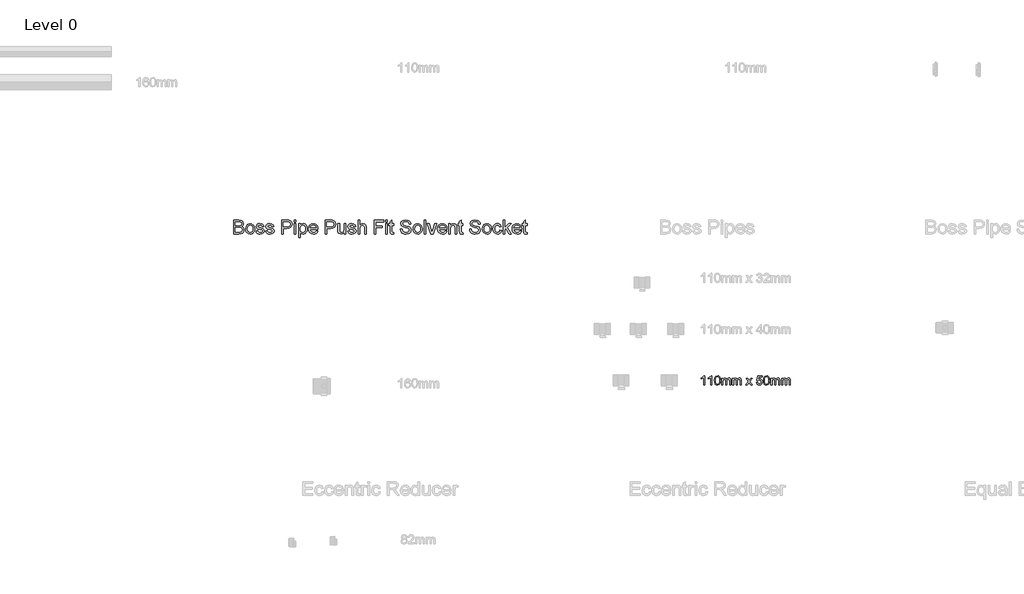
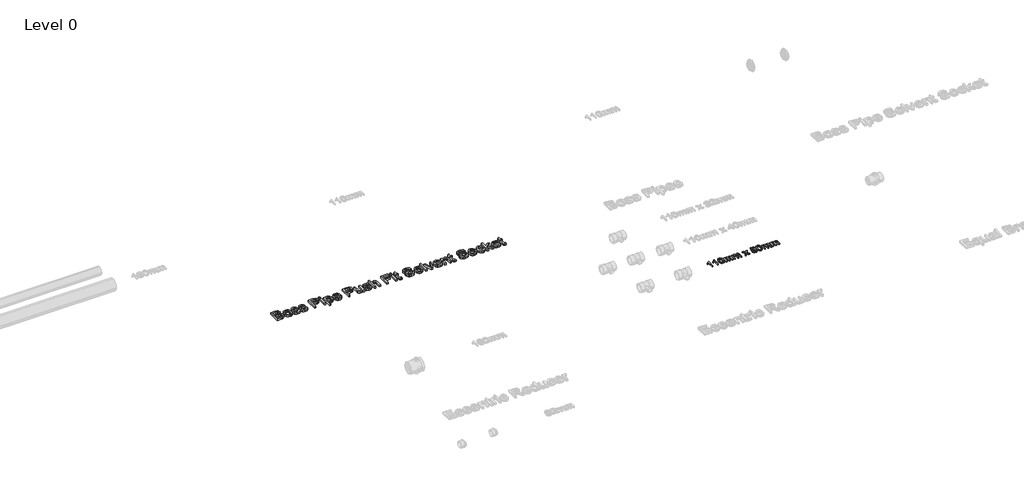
# One storey, part 11 of 28: 2 proxies.
"""IFC4 building model written with IfcOpenShell, lengths in millimetres."""

import ifcopenshell
import ifcopenshell.guid

model = None  # the IFC model being written
_history = None  # IfcOwnerHistory: only IFC2X3 demands one
_inside = {}  # id of a spatial element -> (the spatial element, [elements in it])
_under = {}  # id of a project, library or spatial element -> (it, [spatial elements below it])
_declared = {}  # id of a project -> (the project, [libraries it declares])
_typed = {}  # id of a type object -> (the type object, [elements of that type])
_made_of = {}  # id of a material, layer set ... -> (it, [elements and type objects made of it])


def new_model(schema):
    """Start an empty IFC model of exactly this schema.

    Asked for "IFC4X3", IfcOpenShell would pick the latest addendum, in which some entities
    have other attributes; the version numbers below select the first issue.
    IFC2X3 requires an IfcOwnerHistory on every rooted entity: one is made here for all.
    """
    global model, _history
    if schema == "IFC4X3":
        model = ifcopenshell.file(schema_version=(4, 3, 0, 0))
    else:
        model = ifcopenshell.file(schema=schema)
    _inside.clear()
    _under.clear()
    _declared.clear()
    _typed.clear()
    _made_of.clear()
    _history = None
    if model.schema == "IFC2X3":
        org = make("IfcOrganization", Name="unknown")
        user = make(
            "IfcPersonAndOrganization",
            ThePerson=make("IfcPerson", FamilyName="unknown"),
            TheOrganization=org,
        )
        app = make(
            "IfcApplication",
            ApplicationDeveloper=org,
            Version="unknown",
            ApplicationFullName="unknown",
            ApplicationIdentifier="unknown",
        )
        _history = make(
            "IfcOwnerHistory",
            OwningUser=user,
            OwningApplication=app,
            ChangeAction="ADDED",
            CreationDate=0,
        )
    return model


def make(cls, **values):
    """One entity of the class cls with the attributes given. An attribute that is None is left unset."""
    return model.create_entity(
        cls, **{name: value for name, value in values.items() if value is not None}
    )


def rooted(cls, **values):
    """An entity with a GlobalId (a new one), such as an element, a storey or a relation."""
    return make(cls, GlobalId=ifcopenshell.guid.new(), OwnerHistory=_history, **values)


def si_unit(unit_type, name, prefix=None):
    """IfcSIUnit, for example si_unit("LENGTHUNIT", "METRE", prefix="MILLI")."""
    return make("IfcSIUnit", UnitType=unit_type, Prefix=prefix, Name=name)


def assignment(units):
    """IfcUnitAssignment: the units of a project."""
    return None if units is None else make("IfcUnitAssignment", Units=units)


def point(xyz):
    """IfcCartesianPoint."""
    return None if xyz is None else make("IfcCartesianPoint", Coordinates=xyz)


def direction(xyz):
    """IfcDirection."""
    return None if xyz is None else make("IfcDirection", DirectionRatios=xyz)


def frame(location, z_axis=None, x_axis=None):
    """IfcAxis2Placement3D, a coordinate frame: its origin and axes. An axis left out is left unset."""
    return make(
        "IfcAxis2Placement3D",
        Location=point(location),
        Axis=direction(z_axis),
        RefDirection=direction(x_axis),
    )


def origin():
    """The frame at (0, 0, 0) with its axes left unset."""
    return frame((0.0, 0.0, 0.0))


def origin_with_axes():
    """The frame at (0, 0, 0) with the z axis (0, 0, 1) and the x axis (1, 0, 0) written out."""
    return frame((0.0, 0.0, 0.0), z_axis=(0.0, 0.0, 1.0), x_axis=(1.0, 0.0, 0.0))


def place(relative_to, where):
    """IfcLocalPlacement: puts the frame where relative to a parent placement (None: the world)."""
    return make(
        "IfcLocalPlacement", PlacementRelTo=relative_to, RelativePlacement=where
    )


def context(
    kind, dimensions, precision=None, world=None, true_north=None, identifier=None
):
    """IfcGeometricRepresentationContext, for example the 3D "Model" context."""
    return make(
        "IfcGeometricRepresentationContext",
        ContextIdentifier=identifier,
        ContextType=kind,
        CoordinateSpaceDimension=dimensions,
        Precision=precision,
        WorldCoordinateSystem=world,
        TrueNorth=true_north,
    )


def project(units=None, contexts=None):
    """IfcProject with its units and contexts."""
    return rooted(
        "IfcProject",
        Name="project",
        RepresentationContexts=contexts,
        UnitsInContext=assignment(units),
    )


def spatial(cls, under=None, at=None, **own):
    """A site, building, storey or space (cls), placed at a placement, below another one or the project."""
    s = rooted(cls, ObjectPlacement=at, **own)
    if under is not None:
        _under.setdefault(under.id(), (under, []))[1].append(s)
    return s


def polyline(points):
    """IfcPolyline through the points."""
    return make("IfcPolyline", Points=[point(p) for p in points])


def outline(outer, holes=None, kind="AREA"):
    """IfcArbitraryClosedProfileDef: a profile drawn as a closed curve; with holes, ...WithVoids."""
    if holes is None:
        return make("IfcArbitraryClosedProfileDef", ProfileType=kind, OuterCurve=outer)
    return make(
        "IfcArbitraryProfileDefWithVoids",
        ProfileType=kind,
        OuterCurve=outer,
        InnerCurves=holes,
    )


def extrude(swept, where, along, depth):
    """IfcExtrudedAreaSolid: the profile swept, set in the frame where, extruded along a direction by depth."""
    return make(
        "IfcExtrudedAreaSolid",
        SweptArea=swept,
        Position=where,
        ExtrudedDirection=direction(along),
        Depth=depth,
    )


def shape(context_of_items, identifier, shape_type, items):
    """IfcShapeRepresentation: the items that make up one representation, for example the "Body"."""
    return make(
        "IfcShapeRepresentation",
        ContextOfItems=context_of_items,
        RepresentationIdentifier=identifier,
        RepresentationType=shape_type,
        Items=items,
    )


def made_of(thing, what):
    """Note that an element or type object is made of a material, layer set ...; save() writes the relation."""
    if what is not None:
        _made_of.setdefault(what.id(), (what, []))[1].append(thing)
    return thing


def element(
    cls,
    number,
    at=None,
    inside=None,
    cuts=None,
    type_object=None,
    material=None,
    context=None,
    identifier="Body",
    shape_type=None,
    held_by="IfcProductDefinitionShape",
    body=None,
    shapes=None,
    **own,
):
    """One element of the class cls, such as IfcWall. Its Tag is "e" and its number.

    at: its placement. inside: the storey or other place that contains it. cuts: it is an
    opening in that element (IfcRelVoidsElement). A single representation is given by context,
    identifier, shape_type and body (its items); several are given by shapes. held_by: the class
    of the entity that holds the representations. save() writes the other relations.
    """
    e = rooted(cls, Tag="e%d" % number, ObjectPlacement=at, **own)
    if body is not None:
        shapes = [shape(context, identifier, shape_type, body)]
    if shapes is not None:
        e.Representation = make(held_by, Representations=shapes)
    if inside is not None:
        _inside.setdefault(inside.id(), (inside, []))[1].append(e)
    if cuts is not None:
        rooted(
            "IfcRelVoidsElement", RelatingBuildingElement=cuts, RelatedOpeningElement=e
        )
    if type_object is not None:
        _typed.setdefault(type_object.id(), (type_object, []))[1].append(e)
    return made_of(e, material)


def aggregate(whole, parts):
    """IfcRelAggregates: a whole, such as a stair, and the parts it consists of."""
    return rooted("IfcRelAggregates", RelatingObject=whole, RelatedObjects=parts)


def save(model, path):
    """Write the relations noted so far, then the file.

    IfcRelAggregates (storeys below a building ...), IfcRelContainedInSpatialStructure (elements
    in a storey), IfcRelDefinesByType, IfcRelAssociatesMaterial and IfcRelDeclares: one each for
    every whole, place, type object, material and project.
    """
    for whole, parts in _under.values():
        aggregate(whole, parts)
    for where, things in _inside.values():
        rooted(
            "IfcRelContainedInSpatialStructure",
            RelatedElements=things,
            RelatingStructure=where,
        )
    for kind, things in _typed.values():
        rooted("IfcRelDefinesByType", RelatedObjects=things, RelatingType=kind)
    for what, things in _made_of.values():
        rooted("IfcRelAssociatesMaterial", RelatedObjects=things, RelatingMaterial=what)
    for by, libraries in _declared.values():
        rooted("IfcRelDeclares", RelatingContext=by, RelatedDefinitions=libraries)
    model.write(path)


model = new_model("IFC4")

# Units and contexts
model_context = context("Model", 3, world=origin())
ifc_project = project(units=[si_unit("LENGTHUNIT", "METRE", prefix="MILLI")], contexts=[model_context])

# Site, building, storey
site = spatial("IfcSite", under=ifc_project)
building = spatial("IfcBuilding", under=site)
storey = spatial("IfcBuildingStorey", under=building, Name="Level 0", Elevation=0.0)

# Proxies
placement = place(None, origin())
element("IfcBuildingElementProxy", 1, Name="100mm Arial", ObjectType="100mm Arial", at=placement, inside=storey, context=model_context, shape_type="SweptSolid", body=[
    extrude(outline(polyline([(-17554.0370111, 4888.7830559), (-17566.3447034, 4888.7830559), (-17566.3447034, 4965.5138252), (-17578.0033572, 4957.2085367), (-17590.960088, 4950.9945944), (-17590.960088, 4962.6292098), (-17572.9192226, 4974.1436329), (-17561.9697034, 4987.2445944), (-17554.0370111, 4987.2445944), (-17554.0370111, 4888.7830559)])), origin_with_axes(), (0.0, 0.0, 1.0), 15.0),
    extrude(outline(polyline([(-17478.6523957, 4888.7830559), (-17490.960088, 4888.7830559), (-17490.960088, 4965.5138252), (-17502.6187418, 4957.2085367), (-17515.5754726, 4950.9945944), (-17515.5754726, 4962.6292098), (-17497.5346072, 4974.1436329), (-17486.585088, 4987.2445944), (-17478.6523957, 4987.2445944), (-17478.6523957, 4888.7830559)])), origin_with_axes(), (0.0, 0.0, 1.0), 15.0),
    extrude(outline(polyline([(-17449.4216264, 4937.2205559), (-17445.803838, 4965.5498829), (-17435.0586457, 4981.8840175), (-17417.1139341, 4987.2445944), (-17402.7389341, 4984.0715175), (-17392.8110495, 4974.9248829), (-17387.0418188, 4960.3575752), (-17384.8062418, 4937.2205559), (-17388.3879726, 4909.0114213), (-17399.0971072, 4892.641229), (-17417.1139341, 4887.2445944), (-17429.9023957, 4889.5883444), (-17439.6139341, 4896.6195944), (-17446.9697034, 4913.2722386), (-17449.4216264, 4937.2205559)]), holes=[polyline([(-17437.1139341, 4937.2445944), (-17435.6716264, 4917.8846184), (-17431.3447034, 4906.6796906), (-17424.9023957, 4901.3341377), (-17417.1139341, 4899.5522867), (-17409.3254726, 4901.3401473), (-17402.8831649, 4906.703729), (-17398.5562418, 4917.9146665), (-17397.1139341, 4937.2445944), (-17398.5081649, 4956.1688733), (-17402.6908572, 4967.4609406), (-17409.1211457, 4973.0679117), (-17417.2581649, 4974.9369021), (-17424.9624918, 4973.2902675), (-17431.1523957, 4968.3503636), (-17435.6235495, 4956.3551713), (-17437.1139341, 4937.2445944)])]), origin_with_axes(), (0.0, 0.0, 1.0), 15.0),
    extrude(outline(polyline([(-17370.960088, 4888.7830559), (-17370.960088, 4961.0907483), (-17358.6523957, 4961.0907483), (-17358.6523957, 4949.1917098), (-17350.1908572, 4958.9393059), (-17338.147588, 4962.6292098), (-17325.8158572, 4958.8671906), (-17319.0370111, 4948.3263252), (-17309.4336457, 4959.0534886), (-17297.3062418, 4962.6292098), (-17288.0544389, 4961.14183), (-17281.2124918, 4956.6796906), (-17276.9847274, 4949.1225992), (-17275.5754726, 4938.3503636), (-17275.5754726, 4888.7830559), (-17287.8831649, 4888.7830559), (-17287.8831649, 4933.0619021), (-17289.0249918, 4943.3383444), (-17293.1596072, 4948.3984406), (-17300.1908572, 4950.3215175), (-17312.2942226, 4945.3936329), (-17317.1139341, 4929.6003636), (-17317.1139341, 4888.7830559), (-17329.4216264, 4888.7830559), (-17329.4216264, 4934.4320944), (-17332.2701841, 4946.3551713), (-17341.6091264, 4950.3215175), (-17350.7197034, 4947.6772867), (-17356.7773957, 4939.9369021), (-17358.6523957, 4925.2494021), (-17358.6523957, 4888.7830559), (-17370.960088, 4888.7830559)])), origin_with_axes(), (0.0, 0.0, 1.0), 15.0),
    extrude(outline(polyline([(-17257.1139341, 4888.7830559), (-17257.1139341, 4961.0907483), (-17244.8062418, 4961.0907483), (-17244.8062418, 4949.1917098), (-17236.3447034, 4958.9393059), (-17224.3014341, 4962.6292098), (-17211.9697034, 4958.8671906), (-17205.1908572, 4948.3263252), (-17195.5874918, 4959.0534886), (-17183.460088, 4962.6292098), (-17174.2082851, 4961.14183), (-17167.366338, 4956.6796906), (-17163.1385736, 4949.1225992), (-17161.7293188, 4938.3503636), (-17161.7293188, 4888.7830559), (-17174.0370111, 4888.7830559), (-17174.0370111, 4933.0619021), (-17175.178838, 4943.3383444), (-17179.3134534, 4948.3984406), (-17186.3447034, 4950.3215175), (-17198.4480688, 4945.3936329), (-17203.2677803, 4929.6003636), (-17203.2677803, 4888.7830559), (-17215.5754726, 4888.7830559), (-17215.5754726, 4934.4320944), (-17218.4240303, 4946.3551713), (-17227.7629726, 4950.3215175), (-17236.8735495, 4947.6772867), (-17242.9312418, 4939.9369021), (-17244.8062418, 4925.2494021), (-17244.8062418, 4888.7830559), (-17257.1139341, 4888.7830559)])), origin_with_axes(), (0.0, 0.0, 1.0), 15.0),
    extrude(outline(polyline([(-17112.4985495, 4888.7830559), (-17086.2004726, 4925.1292098), (-17110.960088, 4961.0907483), (-17096.1523957, 4961.0907483), (-17084.2052803, 4943.7830559), (-17078.6283572, 4935.609979), (-17073.7966264, 4942.2926713), (-17060.1908572, 4961.0907483), (-17045.3831649, 4961.0907483), (-17071.3927803, 4925.1292098), (-17046.3447034, 4888.7830559), (-17061.1523957, 4888.7830559), (-17076.2245111, 4910.6340175), (-17078.9889341, 4914.6244021), (-17097.6908572, 4888.7830559), (-17112.4985495, 4888.7830559)])), origin_with_axes(), (0.0, 0.0, 1.0), 15.0),
    extrude(outline(polyline([(-17000.1908572, 4914.9369021), (-16987.8831649, 4916.4753636), (-16981.6812418, 4903.7950752), (-16968.8206649, 4899.5522867), (-16959.9985495, 4901.0276473), (-16953.3879726, 4905.453729), (-16949.2593668, 4912.3197146), (-16947.8831649, 4921.1147867), (-16953.0394149, 4935.7301713), (-16959.5147755, 4939.750604), (-16968.6283572, 4941.0907483), (-16979.4336457, 4938.9513252), (-16986.3447034, 4933.3984406), (-16998.6523957, 4934.9369021), (-16987.8831649, 4985.7061329), (-16940.1908572, 4985.7061329), (-16940.1908572, 4973.3984406), (-16977.9312418, 4973.3984406), (-16983.1956649, 4946.2830559), (-16974.4035976, 4951.6195944), (-16965.1908572, 4953.3984406), (-16953.6914582, 4951.1929117), (-16944.1451841, 4944.5763252), (-16937.7179005, 4934.4921906), (-16935.5754726, 4921.8840175), (-16937.5045591, 4909.5763252), (-16943.2918188, 4899.047479), (-16954.3735495, 4890.1953156), (-16968.8687418, 4887.2445944), (-16980.9570832, 4889.1406281), (-16990.5874918, 4894.828729), (-16997.1890543, 4903.6478396), (-17000.1908572, 4914.9369021)])), origin_with_axes(), (0.0, 0.0, 1.0), 15.0),
    extrude(outline(polyline([(-16924.8062418, 4937.2205559), (-16921.1884534, 4965.5498829), (-16910.4432611, 4981.8840175), (-16892.4985495, 4987.2445944), (-16878.1235495, 4984.0715175), (-16868.1956649, 4974.9248829), (-16862.4264341, 4960.3575752), (-16860.1908572, 4937.2205559), (-16863.772588, 4909.0114213), (-16874.4817226, 4892.641229), (-16892.4985495, 4887.2445944), (-16905.2870111, 4889.5883444), (-16914.9985495, 4896.6195944), (-16922.3543188, 4913.2722386), (-16924.8062418, 4937.2205559)]), holes=[polyline([(-16912.4985495, 4937.2445944), (-16911.0562418, 4917.8846184), (-16906.7293188, 4906.6796906), (-16900.2870111, 4901.3341377), (-16892.4985495, 4899.5522867), (-16884.710088, 4901.3401473), (-16878.2677803, 4906.703729), (-16873.9408572, 4917.9146665), (-16872.4985495, 4937.2445944), (-16873.8927803, 4956.1688733), (-16878.0754726, 4967.4609406), (-16884.5057611, 4973.0679117), (-16892.6427803, 4974.9369021), (-16900.3471072, 4973.2902675), (-16906.5370111, 4968.3503636), (-16911.0081649, 4956.3551713), (-16912.4985495, 4937.2445944)])]), origin_with_axes(), (0.0, 0.0, 1.0), 15.0),
    extrude(outline(polyline([(-16846.3447034, 4888.7830559), (-16846.3447034, 4961.0907483), (-16834.0370111, 4961.0907483), (-16834.0370111, 4949.1917098), (-16825.5754726, 4958.9393059), (-16813.5322034, 4962.6292098), (-16801.2004726, 4958.8671906), (-16794.4216264, 4948.3263252), (-16784.8182611, 4959.0534886), (-16772.6908572, 4962.6292098), (-16763.4390543, 4961.14183), (-16756.5971072, 4956.6796906), (-16752.3693428, 4949.1225992), (-16750.960088, 4938.3503636), (-16750.960088, 4888.7830559), (-16763.2677803, 4888.7830559), (-16763.2677803, 4933.0619021), (-16764.4096072, 4943.3383444), (-16768.5442226, 4948.3984406), (-16775.5754726, 4950.3215175), (-16787.678838, 4945.3936329), (-16792.4985495, 4929.6003636), (-16792.4985495, 4888.7830559), (-16804.8062418, 4888.7830559), (-16804.8062418, 4934.4320944), (-16807.6547995, 4946.3551713), (-16816.9937418, 4950.3215175), (-16826.1043188, 4947.6772867), (-16832.1620111, 4939.9369021), (-16834.0370111, 4925.2494021), (-16834.0370111, 4888.7830559), (-16846.3447034, 4888.7830559)])), origin_with_axes(), (0.0, 0.0, 1.0), 15.0),
    extrude(outline(polyline([(-16732.4985495, 4888.7830559), (-16732.4985495, 4961.0907483), (-16720.1908572, 4961.0907483), (-16720.1908572, 4949.1917098), (-16711.7293188, 4958.9393059), (-16699.6860495, 4962.6292098), (-16687.3543188, 4958.8671906), (-16680.5754726, 4948.3263252), (-16670.9721072, 4959.0534886), (-16658.8447034, 4962.6292098), (-16649.5929005, 4961.14183), (-16642.7509534, 4956.6796906), (-16638.5231889, 4949.1225992), (-16637.1139341, 4938.3503636), (-16637.1139341, 4888.7830559), (-16649.4216264, 4888.7830559), (-16649.4216264, 4933.0619021), (-16650.5634534, 4943.3383444), (-16654.6980688, 4948.3984406), (-16661.7293188, 4950.3215175), (-16673.8326841, 4945.3936329), (-16678.6523957, 4929.6003636), (-16678.6523957, 4888.7830559), (-16690.960088, 4888.7830559), (-16690.960088, 4934.4320944), (-16693.8086457, 4946.3551713), (-16703.147588, 4950.3215175), (-16712.2581649, 4947.6772867), (-16718.3158572, 4939.9369021), (-16720.1908572, 4925.2494021), (-16720.1908572, 4888.7830559), (-16732.4985495, 4888.7830559)])), origin_with_axes(), (0.0, 0.0, 1.0), 15.0),
])
element("IfcBuildingElementProxy", 2, Name="150mm Arial", ObjectType="150mm Arial", at=placement, inside=storey, context=model_context, shape_type="SweptSolid", body=[
    extrude(outline(polyline([(-22592.5279897, 6505.2145219), (-22592.5279897, 6652.9068296), (-22536.1698166, 6652.9068296), (-22508.5676531, 6648.5618777), (-22499.2918118, 6643.049558), (-22492.2695762, 6635.2025027), (-22486.3741435, 6616.3082719), (-22491.3320762, 6599.0546661), (-22506.3140473, 6585.9837527), (-22495.8528094, 6580.5210123), (-22488.1229416, 6572.2097142), (-22483.3498046, 6561.5997383), (-22481.7587589, 6549.2409642), (-22486.1037108, 6529.3912046), (-22496.866932, 6515.2565892), (-22512.9306339, 6507.7565892), (-22536.6025089, 6505.2145219), (-22592.5279897, 6505.2145219)]), holes=[polyline([(-22574.0664512, 6523.6760604), (-22536.2058743, 6523.6760604), (-22522.5039512, 6524.3972142), (-22510.9114031, 6528.4176469), (-22503.2311147, 6536.6207719), (-22500.2202973, 6549.0606758), (-22503.7539512, 6563.4116373), (-22515.2022685, 6571.9753392), (-22538.0087589, 6574.4452911), (-22574.0664512, 6574.4452911), (-22574.0664512, 6523.6760604)]), polyline([(-22574.0664512, 6592.9068296), (-22540.3525089, 6592.9068296), (-22520.6650089, 6594.4933681), (-22508.820057, 6601.3263008), (-22504.835682, 6613.3515411), (-22508.5496243, 6625.3948104), (-22519.1866435, 6632.5162046), (-22542.912605, 6634.4452911), (-22574.0664512, 6634.4452911), (-22574.0664512, 6592.9068296)])]), origin_with_axes(), (0.0, 0.0, 1.0), 25.0),
    extrude(outline(polyline([(-22463.2972204, 6559.4452911), (-22459.303831, 6585.5961325), (-22447.3236627, 6603.9765411), (-22432.52198, 6612.9819498), (-22414.7996243, 6615.9837527), (-22395.405093, 6612.3284041), (-22379.913807, 6601.3623585), (-22369.7590594, 6583.9510003), (-22366.3741435, 6560.9597142), (-22367.8705377, 6542.3088729), (-22372.3597204, 6528.1111565), (-22379.7109824, 6517.4786445), (-22389.7936147, 6509.5234161), (-22401.7692757, 6504.5609762), (-22414.7996243, 6502.9068296), (-22434.4285305, 6506.5486565), (-22449.9017877, 6517.4741373), (-22459.9483622, 6535.2505796), (-22463.2972204, 6559.4452911)]), holes=[polyline([(-22444.835682, 6559.4813488), (-22442.6992637, 6542.7731157), (-22436.2900089, 6530.86957), (-22426.6445762, 6523.7436686), (-22414.7996243, 6521.3683681), (-22403.0087589, 6523.7571902), (-22393.381355, 6530.9236565), (-22386.9721002, 6542.9849546), (-22384.835682, 6560.0582719), (-22386.9856219, 6576.2797262), (-22393.4354416, 6588.0210123), (-22403.0763671, 6595.1469137), (-22414.7996243, 6597.5222142), (-22426.6445762, 6595.1559282), (-22436.2900089, 6588.05707), (-22442.6992637, 6576.1805676), (-22444.835682, 6559.4813488)])]), origin_with_axes(), (0.0, 0.0, 1.0), 25.0),
    extrude(outline(polyline([(-22352.5279897, 6537.5222142), (-22334.0664512, 6539.8299065), (-22331.1547925, 6531.9332719), (-22325.5207781, 6526.1279835), (-22305.9414512, 6521.3683681), (-22287.1193358, 6525.7313488), (-22280.9895281, 6535.9717335), (-22287.1553935, 6544.2650027), (-22306.1577973, 6549.5294258), (-22333.9582781, 6558.5618777), (-22346.0916916, 6569.1087527), (-22350.2202973, 6584.0005796), (-22346.9029897, 6597.7565892), (-22337.8525089, 6608.2674065), (-22326.11573, 6613.7301469), (-22310.2323166, 6615.9837527), (-22287.7683743, 6612.3599546), (-22273.4895281, 6602.5522623), (-22267.1433743, 6585.9837527), (-22285.6049127, 6583.6760604), (-22292.5460185, 6593.8623585), (-22308.7900089, 6597.5222142), (-22326.4582781, 6594.0246181), (-22331.7587589, 6585.8755796), (-22329.5592397, 6580.5029835), (-22322.6722204, 6576.4284642), (-22306.7707781, 6572.4981758), (-22279.6734223, 6563.8082719), (-22267.0892877, 6553.9645219), (-22262.5279897, 6537.9188488), (-22267.882557, 6520.2505796), (-22283.3332781, 6507.43207), (-22306.193855, 6502.9068296), (-22324.8086387, 6505.08832), (-22338.3933743, 6511.6327911), (-22347.4618839, 6522.4681277), (-22352.5279897, 6537.5222142)])), origin_with_axes(), (0.0, 0.0, 1.0), 25.0),
    extrude(outline(polyline([(-22248.6818358, 6537.5222142), (-22230.2202973, 6539.8299065), (-22227.3086387, 6531.9332719), (-22221.6746243, 6526.1279835), (-22202.0952973, 6521.3683681), (-22183.273182, 6525.7313488), (-22177.1433743, 6535.9717335), (-22183.3092397, 6544.2650027), (-22202.3116435, 6549.5294258), (-22230.1121243, 6558.5618777), (-22242.2455377, 6569.1087527), (-22246.3741435, 6584.0005796), (-22243.0568358, 6597.7565892), (-22234.006355, 6608.2674065), (-22222.2695762, 6613.7301469), (-22206.3861627, 6615.9837527), (-22183.9222204, 6612.3599546), (-22169.6433743, 6602.5522623), (-22163.2972204, 6585.9837527), (-22181.7587589, 6583.6760604), (-22188.6998647, 6593.8623585), (-22204.943855, 6597.5222142), (-22222.6121243, 6594.0246181), (-22227.912605, 6585.8755796), (-22225.7130858, 6580.5029835), (-22218.8260666, 6576.4284642), (-22202.9246243, 6572.4981758), (-22175.8272685, 6563.8082719), (-22163.2431339, 6553.9645219), (-22158.6818358, 6537.9188488), (-22164.0364031, 6520.2505796), (-22179.4871243, 6507.43207), (-22202.3477012, 6502.9068296), (-22220.9624848, 6505.08832), (-22234.5472204, 6511.6327911), (-22243.61573, 6522.4681277), (-22248.6818358, 6537.5222142)])), origin_with_axes(), (0.0, 0.0, 1.0), 25.0),
    extrude(outline(polyline([(-22077.912605, 6505.2145219), (-22077.912605, 6652.9068296), (-22023.1770281, 6652.9068296), (-22001.1097204, 6651.5005796), (-21983.1710185, 6644.5955315), (-21971.5424127, 6630.3166854), (-21967.1433743, 6610.1784642), (-21970.1136267, 6592.7716133), (-21979.0243839, 6578.2674065), (-21995.6875449, 6568.4777431), (-22021.9150089, 6565.2145219), (-22059.4510666, 6565.2145219), (-22059.4510666, 6505.2145219), (-22077.912605, 6505.2145219)]), holes=[polyline([(-22059.4510666, 6583.6760604), (-22020.8332781, 6583.6760604), (-22004.4630858, 6585.3707719), (-21993.6457781, 6590.4549065), (-21987.6151291, 6598.6129594), (-21985.6049127, 6609.5294258), (-21990.3464993, 6624.8178873), (-22002.804432, 6633.1832719), (-22021.2659704, 6634.4452911), (-22059.4510666, 6634.4452911), (-22059.4510666, 6583.6760604)])]), origin_with_axes(), (0.0, 0.0, 1.0), 25.0),
    extrude(outline(polyline([(-21944.0664512, 6634.4452911), (-21944.0664512, 6652.9068296), (-21925.6049127, 6652.9068296), (-21925.6049127, 6634.4452911), (-21944.0664512, 6634.4452911)])), origin_with_axes(), (0.0, 0.0, 1.0), 25.0),
    extrude(outline(polyline([(-21944.0664512, 6505.2145219), (-21944.0664512, 6613.6760604), (-21925.6049127, 6613.6760604), (-21925.6049127, 6505.2145219), (-21944.0664512, 6505.2145219)])), origin_with_axes(), (0.0, 0.0, 1.0), 25.0),
    extrude(outline(polyline([(-21897.912605, 6463.6760604), (-21897.912605, 6613.6760604), (-21879.4510666, 6613.6760604), (-21879.4510666, 6595.5750988), (-21866.6866435, 6610.8815892), (-21849.4510666, 6615.9837527), (-21836.9660906, 6614.1988969), (-21826.0496243, 6608.8443296), (-21817.1614031, 6600.24457), (-21810.7611627, 6588.7241373), (-21805.6049127, 6560.2746181), (-21807.0607421, 6544.4858561), (-21811.42823, 6530.3647623), (-21818.5676531, 6518.6279835), (-21828.3392877, 6509.9921661), (-21839.7199969, 6504.6781637), (-21851.6866435, 6502.9068296), (-21867.7503454, 6507.6484161), (-21879.4510666, 6519.6375988), (-21879.4510666, 6463.6760604), (-21897.912605, 6463.6760604)]), holes=[polyline([(-21879.4510666, 6558.5799065), (-21877.4543719, 6542.0294258), (-21871.4642877, 6530.4549065), (-21862.6256459, 6523.6400027), (-21852.0832781, 6521.3683681), (-21841.3696363, 6523.7211325), (-21832.3056339, 6530.7794258), (-21826.1262469, 6542.7776229), (-21824.0664512, 6559.9500988), (-21826.0766675, 6576.4104354), (-21832.1073166, 6588.1472142), (-21840.9324368, 6595.1784642), (-21851.3260666, 6597.5222142), (-21861.7602613, 6595.0297262), (-21870.9234223, 6587.5522623), (-21877.3191555, 6575.3241974), (-21879.4510666, 6558.5799065)])]), origin_with_axes(), (0.0, 0.0, 1.0), 25.0),
    extrude(outline(polyline([(-21708.898182, 6537.5222142), (-21690.7972204, 6535.2145219), (-21697.3191555, 6521.5756998), (-21707.726307, 6511.3803873), (-21721.7842997, 6505.025219), (-21739.2587589, 6502.9068296), (-21760.9204175, 6506.5621782), (-21777.5880858, 6517.5282238), (-21788.2160906, 6535.0928272), (-21791.7587589, 6558.5438488), (-21788.1800329, 6582.7836325), (-21777.443855, 6600.9116373), (-21761.0015473, 6612.2157238), (-21740.304432, 6615.9837527), (-21720.2518478, 6612.2247383), (-21704.2287108, 6600.947695), (-21693.7224007, 6582.8557479), (-21690.2202973, 6558.6520219), (-21690.3284704, 6553.6760604), (-21773.2972204, 6553.6760604), (-21770.1016074, 6539.8569498), (-21762.67823, 6529.697695), (-21751.9645882, 6523.4506998), (-21738.898182, 6521.3683681), (-21720.7972204, 6525.2265411), (-21708.898182, 6537.5222142)]), holes=[polyline([(-21773.2972204, 6572.1375988), (-21708.6818358, 6572.1375988), (-21711.178831, 6581.8912046), (-21716.0736627, 6588.8683681), (-21726.8368839, 6595.3587527), (-21740.3765473, 6597.5222142), (-21752.8209584, 6595.7959522), (-21763.1109223, 6590.6171661), (-21770.2638671, 6582.5447503), (-21773.2972204, 6572.1375988)])]), origin_with_axes(), (0.0, 0.0, 1.0), 25.0),
    extrude(outline(polyline([(-21611.7587589, 6505.2145219), (-21611.7587589, 6652.9068296), (-21557.023182, 6652.9068296), (-21534.9558743, 6651.5005796), (-21517.0171723, 6644.5955315), (-21505.3885666, 6630.3166854), (-21500.9895281, 6610.1784642), (-21503.9597805, 6592.7716133), (-21512.8705377, 6578.2674065), (-21529.5336988, 6568.4777431), (-21555.7611627, 6565.2145219), (-21593.2972204, 6565.2145219), (-21593.2972204, 6505.2145219), (-21611.7587589, 6505.2145219)]), holes=[polyline([(-21593.2972204, 6583.6760604), (-21554.679432, 6583.6760604), (-21538.3092397, 6585.3707719), (-21527.491932, 6590.4549065), (-21521.4612829, 6598.6129594), (-21519.4510666, 6609.5294258), (-21524.1926531, 6624.8178873), (-21536.6505858, 6633.1832719), (-21555.1121243, 6634.4452911), (-21593.2972204, 6634.4452911), (-21593.2972204, 6583.6760604)])]), origin_with_axes(), (0.0, 0.0, 1.0), 25.0),
    extrude(outline(polyline([(-21408.6818358, 6505.2145219), (-21408.6818358, 6523.8563488), (-21423.1409704, 6508.1442094), (-21441.9991435, 6502.9068296), (-21459.3609223, 6506.5847142), (-21471.3320762, 6515.8154835), (-21476.8308743, 6529.4092335), (-21477.912605, 6546.572695), (-21477.912605, 6613.6760604), (-21459.4510666, 6613.6760604), (-21459.4510666, 6555.2625988), (-21458.3332781, 6536.4404835), (-21451.0315954, 6525.3888008), (-21437.2755858, 6521.3683681), (-21421.8609223, 6525.478945), (-21411.6746243, 6536.6748585), (-21408.6818358, 6557.2457719), (-21408.6818358, 6613.6760604), (-21390.2202973, 6613.6760604), (-21390.2202973, 6505.2145219), (-21408.6818358, 6505.2145219)])), origin_with_axes(), (0.0, 0.0, 1.0), 25.0),
    extrude(outline(polyline([(-21371.7587589, 6537.5222142), (-21353.2972204, 6539.8299065), (-21350.3855618, 6531.9332719), (-21344.7515473, 6526.1279835), (-21325.1722204, 6521.3683681), (-21306.350105, 6525.7313488), (-21300.2202973, 6535.9717335), (-21306.3861627, 6544.2650027), (-21325.3885666, 6549.5294258), (-21353.1890473, 6558.5618777), (-21365.3224608, 6569.1087527), (-21369.4510666, 6584.0005796), (-21366.1337589, 6597.7565892), (-21357.0832781, 6608.2674065), (-21345.3464993, 6613.7301469), (-21329.4630858, 6615.9837527), (-21306.9991435, 6612.3599546), (-21292.7202973, 6602.5522623), (-21286.3741435, 6585.9837527), (-21304.835682, 6583.6760604), (-21311.7767877, 6593.8623585), (-21328.0207781, 6597.5222142), (-21345.6890473, 6594.0246181), (-21350.9895281, 6585.8755796), (-21348.7900089, 6580.5029835), (-21341.9029897, 6576.4284642), (-21326.0015473, 6572.4981758), (-21298.9041916, 6563.8082719), (-21286.320057, 6553.9645219), (-21281.7587589, 6537.9188488), (-21287.1133262, 6520.2505796), (-21302.5640473, 6507.43207), (-21325.4246243, 6502.9068296), (-21344.0394079, 6505.08832), (-21357.6241435, 6511.6327911), (-21366.6926531, 6522.4681277), (-21371.7587589, 6537.5222142)])), origin_with_axes(), (0.0, 0.0, 1.0), 25.0),
    extrude(outline(polyline([(-21260.9895281, 6505.2145219), (-21260.9895281, 6652.9068296), (-21242.5279897, 6652.9068296), (-21242.5279897, 6598.603945), (-21228.131956, 6611.6388008), (-21210.4005858, 6615.9837527), (-21189.6674127, 6611.2421661), (-21177.0832781, 6598.135195), (-21173.2972204, 6573.8683681), (-21173.2972204, 6505.2145219), (-21191.7587589, 6505.2145219), (-21191.7587589, 6571.9573104), (-21193.2281098, 6583.5138008), (-21197.6361627, 6591.4284642), (-21204.7395281, 6595.9987767), (-21214.2948166, 6597.5222142), (-21229.4210185, 6593.4116373), (-21239.5171723, 6582.2698104), (-21242.5279897, 6562.8347142), (-21242.5279897, 6505.2145219), (-21260.9895281, 6505.2145219)])), origin_with_axes(), (0.0, 0.0, 1.0), 25.0),
    extrude(outline(polyline([(-21087.912605, 6505.2145219), (-21087.912605, 6652.9068296), (-20988.6818358, 6652.9068296), (-20988.6818358, 6634.4452911), (-21069.4510666, 6634.4452911), (-21069.4510666, 6590.5991373), (-21000.2202973, 6590.5991373), (-21000.2202973, 6572.1375988), (-21069.4510666, 6572.1375988), (-21069.4510666, 6505.2145219), (-21087.912605, 6505.2145219)])), origin_with_axes(), (0.0, 0.0, 1.0), 25.0),
    extrude(outline(polyline([(-20965.6049127, 6634.4452911), (-20965.6049127, 6652.9068296), (-20947.1433743, 6652.9068296), (-20947.1433743, 6634.4452911), (-20965.6049127, 6634.4452911)])), origin_with_axes(), (0.0, 0.0, 1.0), 25.0),
    extrude(outline(polyline([(-20965.6049127, 6505.2145219), (-20965.6049127, 6613.6760604), (-20947.1433743, 6613.6760604), (-20947.1433743, 6505.2145219), (-20965.6049127, 6505.2145219)])), origin_with_axes(), (0.0, 0.0, 1.0), 25.0),
    extrude(outline(polyline([(-20880.2202973, 6520.6111565), (-20877.912605, 6504.6736565), (-20891.7227012, 6502.9068296), (-20907.1914512, 6505.9717335), (-20914.9077973, 6514.0125988), (-20917.1433743, 6534.9621181), (-20917.1433743, 6595.2145219), (-20930.9895281, 6595.2145219), (-20930.9895281, 6613.6760604), (-20917.1433743, 6613.6760604), (-20917.1433743, 6640.0342335), (-20898.6818358, 6650.8875988), (-20898.6818358, 6613.6760604), (-20880.2202973, 6613.6760604), (-20880.2202973, 6595.2145219), (-20898.6818358, 6595.2145219), (-20898.6818358, 6535.5029835), (-20897.7082781, 6525.9837527), (-20894.55323, 6522.6123585), (-20888.2611627, 6521.3683681), (-20880.2202973, 6520.6111565)])), origin_with_axes(), (0.0, 0.0, 1.0), 25.0),
    extrude(outline(polyline([(-20808.6818358, 6555.9837527), (-20790.2202973, 6555.9837527), (-20784.2707781, 6537.5041854), (-20769.7395281, 6525.8214931), (-20747.600105, 6521.3683681), (-20728.3092397, 6524.7397623), (-20715.851307, 6534.0065892), (-20711.7587589, 6546.3924065), (-20714.8236627, 6557.9128392), (-20727.3717397, 6566.2962527), (-20754.2527493, 6573.3455315), (-20783.1890473, 6582.4500988), (-20798.8921723, 6596.1880796), (-20804.0664512, 6614.541445), (-20802.4663911, 6625.3542455), (-20797.6662108, 6635.4368777), (-20789.7921122, 6643.9825508), (-20778.9702973, 6650.1844738), (-20751.6025089, 6655.2145219), (-20722.3957781, 6649.9500988), (-20711.1998647, 6643.4506998), (-20702.9246243, 6634.4813488), (-20697.6872445, 6623.6009402), (-20695.6049127, 6611.3683681), (-20714.0664512, 6611.3683681), (-20717.4558743, 6622.3839931), (-20724.523182, 6630.3347142), (-20735.5658502, 6635.1484161), (-20750.881355, 6636.7529835), (-20766.5574368, 6635.166445), (-20777.3116435, 6630.4068296), (-20783.5315954, 6623.4026229), (-20785.6049127, 6615.0823104), (-20784.1355618, 6607.9879594), (-20779.7275089, 6602.2818296), (-20749.5832781, 6591.9693296), (-20716.9150089, 6582.7025027), (-20706.3906699, 6576.0047863), (-20699.0484223, 6567.7385604), (-20693.2972204, 6546.8611565), (-20694.9513671, 6535.4804474), (-20699.913807, 6524.77582), (-20707.9817156, 6515.5630796), (-20718.9522685, 6508.6580315), (-20746.8789512, 6502.9068296), (-20764.9663911, 6504.4573104), (-20779.8537108, 6509.1087527), (-20791.7121844, 6516.8791854), (-20800.7130858, 6527.7866373), (-20806.491331, 6541.0738969), (-20808.6818358, 6555.9837527)])), origin_with_axes(), (0.0, 0.0, 1.0), 25.0),
    extrude(outline(polyline([(-20672.5279897, 6559.4452911), (-20668.5346002, 6585.5961325), (-20656.554432, 6603.9765411), (-20641.7527493, 6612.9819498), (-20624.0303935, 6615.9837527), (-20604.6358622, 6612.3284041), (-20589.1445762, 6601.3623585), (-20578.9898286, 6583.9510003), (-20575.6049127, 6560.9597142), (-20577.101307, 6542.3088729), (-20581.5904897, 6528.1111565), (-20588.9417517, 6517.4786445), (-20599.0243839, 6509.5234161), (-20611.0000449, 6504.5609762), (-20624.0303935, 6502.9068296), (-20643.6592997, 6506.5486565), (-20659.132557, 6517.4741373), (-20669.1791315, 6535.2505796), (-20672.5279897, 6559.4452911)]), holes=[polyline([(-20654.0664512, 6559.4813488), (-20651.9300329, 6542.7731157), (-20645.5207781, 6530.86957), (-20635.8753454, 6523.7436686), (-20624.0303935, 6521.3683681), (-20612.2395281, 6523.7571902), (-20602.6121243, 6530.9236565), (-20596.2028695, 6542.9849546), (-20594.0664512, 6560.0582719), (-20596.2163911, 6576.2797262), (-20602.6662108, 6588.0210123), (-20612.3071363, 6595.1469137), (-20624.0303935, 6597.5222142), (-20635.8753454, 6595.1559282), (-20645.5207781, 6588.05707), (-20651.9300329, 6576.1805676), (-20654.0664512, 6559.4813488)])]), origin_with_axes(), (0.0, 0.0, 1.0), 25.0),
    extrude(outline(polyline([(-20554.835682, 6505.2145219), (-20554.835682, 6652.9068296), (-20536.3741435, 6652.9068296), (-20536.3741435, 6505.2145219), (-20554.835682, 6505.2145219)])), origin_with_axes(), (0.0, 0.0, 1.0), 25.0),
    extrude(outline(polyline([(-20482.0712589, 6505.2145219), (-20520.2202973, 6613.6760604), (-20500.6770281, 6613.6760604), (-20477.5640473, 6548.7000988), (-20470.6049127, 6526.8491373), (-20463.7900089, 6547.4741373), (-20440.5327973, 6613.6760604), (-20420.9895281, 6613.6760604), (-20458.6698166, 6505.2145219), (-20482.0712589, 6505.2145219)])), origin_with_axes(), (0.0, 0.0, 1.0), 25.0),
    extrude(outline(polyline([(-20328.898182, 6537.5222142), (-20310.7972204, 6535.2145219), (-20317.3191555, 6521.5756998), (-20327.726307, 6511.3803873), (-20341.7842997, 6505.025219), (-20359.2587589, 6502.9068296), (-20380.9204175, 6506.5621782), (-20397.5880858, 6517.5282238), (-20408.2160906, 6535.0928272), (-20411.7587589, 6558.5438488), (-20408.1800329, 6582.7836325), (-20397.443855, 6600.9116373), (-20381.0015473, 6612.2157238), (-20360.304432, 6615.9837527), (-20340.2518478, 6612.2247383), (-20324.2287108, 6600.947695), (-20313.7224007, 6582.8557479), (-20310.2202973, 6558.6520219), (-20310.3284704, 6553.6760604), (-20393.2972204, 6553.6760604), (-20390.1016074, 6539.8569498), (-20382.67823, 6529.697695), (-20371.9645882, 6523.4506998), (-20358.898182, 6521.3683681), (-20340.7972204, 6525.2265411), (-20328.898182, 6537.5222142)]), holes=[polyline([(-20393.2972204, 6572.1375988), (-20328.6818358, 6572.1375988), (-20331.178831, 6581.8912046), (-20336.0736627, 6588.8683681), (-20346.8368839, 6595.3587527), (-20360.3765473, 6597.5222142), (-20372.8209584, 6595.7959522), (-20383.1109223, 6590.6171661), (-20390.2638671, 6582.5447503), (-20393.2972204, 6572.1375988)])]), origin_with_axes(), (0.0, 0.0, 1.0), 25.0),
    extrude(outline(polyline([(-20291.7587589, 6505.2145219), (-20291.7587589, 6613.6760604), (-20273.2972204, 6613.6760604), (-20273.2972204, 6598.5318296), (-20259.1806339, 6611.6207719), (-20239.9077973, 6615.9837527), (-20222.4739031, 6612.4681277), (-20210.5748647, 6603.2373585), (-20205.0400089, 6589.6616373), (-20204.0664512, 6571.8130796), (-20204.0664512, 6505.2145219), (-20222.5279897, 6505.2145219), (-20222.5279897, 6569.3250988), (-20224.6553935, 6585.6592335), (-20232.1734223, 6594.2950508), (-20244.8477012, 6597.5222142), (-20255.6605017, 6595.7103152), (-20264.8777493, 6590.2746181), (-20271.1923526, 6579.7728152), (-20273.2972204, 6562.7625988), (-20273.2972204, 6505.2145219), (-20291.7587589, 6505.2145219)])), origin_with_axes(), (0.0, 0.0, 1.0), 25.0),
    extrude(outline(polyline([(-20139.4510666, 6520.6111565), (-20137.1433743, 6504.6736565), (-20150.9534704, 6502.9068296), (-20166.4222204, 6505.9717335), (-20174.1385666, 6514.0125988), (-20176.3741435, 6534.9621181), (-20176.3741435, 6595.2145219), (-20190.2202973, 6595.2145219), (-20190.2202973, 6613.6760604), (-20176.3741435, 6613.6760604), (-20176.3741435, 6640.0342335), (-20157.912605, 6650.8875988), (-20157.912605, 6613.6760604), (-20139.4510666, 6613.6760604), (-20139.4510666, 6595.2145219), (-20157.912605, 6595.2145219), (-20157.912605, 6535.5029835), (-20156.9390473, 6525.9837527), (-20153.7839993, 6522.6123585), (-20147.491932, 6521.3683681), (-20139.4510666, 6520.6111565)])), origin_with_axes(), (0.0, 0.0, 1.0), 25.0),
    extrude(outline(polyline([(-20067.912605, 6555.9837527), (-20049.4510666, 6555.9837527), (-20043.5015473, 6537.5041854), (-20028.9702973, 6525.8214931), (-20006.8308743, 6521.3683681), (-19987.5400089, 6524.7397623), (-19975.0820762, 6534.0065892), (-19970.9895281, 6546.3924065), (-19974.054432, 6557.9128392), (-19986.6025089, 6566.2962527), (-20013.4835185, 6573.3455315), (-20042.4198166, 6582.4500988), (-20058.1229416, 6596.1880796), (-20063.2972204, 6614.541445), (-20061.6971603, 6625.3542455), (-20056.89698, 6635.4368777), (-20049.0228815, 6643.9825508), (-20038.2010666, 6650.1844738), (-20010.8332781, 6655.2145219), (-19981.6265473, 6649.9500988), (-19970.4306339, 6643.4506998), (-19962.1553935, 6634.4813488), (-19956.9180137, 6623.6009402), (-19954.835682, 6611.3683681), (-19973.2972204, 6611.3683681), (-19976.6866435, 6622.3839931), (-19983.7539512, 6630.3347142), (-19994.7966195, 6635.1484161), (-20010.1121243, 6636.7529835), (-20025.788206, 6635.166445), (-20036.5424127, 6630.4068296), (-20042.7623647, 6623.4026229), (-20044.835682, 6615.0823104), (-20043.366331, 6607.9879594), (-20038.9582781, 6602.2818296), (-20008.8140473, 6591.9693296), (-19976.1457781, 6582.7025027), (-19965.6214392, 6576.0047863), (-19958.2791916, 6567.7385604), (-19952.5279897, 6546.8611565), (-19954.1821363, 6535.4804474), (-19959.1445762, 6524.77582), (-19967.2124848, 6515.5630796), (-19978.1830377, 6508.6580315), (-20006.1097204, 6502.9068296), (-20024.1971603, 6504.4573104), (-20039.08448, 6509.1087527), (-20050.9429536, 6516.8791854), (-20059.943855, 6527.7866373), (-20065.7221002, 6541.0738969), (-20067.912605, 6555.9837527)])), origin_with_axes(), (0.0, 0.0, 1.0), 25.0),
    extrude(outline(polyline([(-19931.7587589, 6559.4452911), (-19927.7653695, 6585.5961325), (-19915.7852012, 6603.9765411), (-19900.9835185, 6612.9819498), (-19883.2611627, 6615.9837527), (-19863.8666315, 6612.3284041), (-19848.3753454, 6601.3623585), (-19838.2205978, 6583.9510003), (-19834.835682, 6560.9597142), (-19836.3320762, 6542.3088729), (-19840.8212589, 6528.1111565), (-19848.1725209, 6517.4786445), (-19858.2551531, 6509.5234161), (-19870.2308142, 6504.5609762), (-19883.2611627, 6502.9068296), (-19902.890069, 6506.5486565), (-19918.3633262, 6517.4741373), (-19928.4099007, 6535.2505796), (-19931.7587589, 6559.4452911)]), holes=[polyline([(-19913.2972204, 6559.4813488), (-19911.1608022, 6542.7731157), (-19904.7515473, 6530.86957), (-19895.1061147, 6523.7436686), (-19883.2611627, 6521.3683681), (-19871.4702973, 6523.7571902), (-19861.8428935, 6530.9236565), (-19855.4336387, 6542.9849546), (-19853.2972204, 6560.0582719), (-19855.4471603, 6576.2797262), (-19861.89698, 6588.0210123), (-19871.5379055, 6595.1469137), (-19883.2611627, 6597.5222142), (-19895.1061147, 6595.1559282), (-19904.7515473, 6588.05707), (-19911.1608022, 6576.1805676), (-19913.2972204, 6559.4813488)])]), origin_with_axes(), (0.0, 0.0, 1.0), 25.0),
    extrude(outline(polyline([(-19744.835682, 6544.4452911), (-19726.3741435, 6542.1375988), (-19731.5213791, 6525.7178272), (-19741.193855, 6513.3094738), (-19754.4811147, 6505.5074907), (-19770.4727012, 6502.9068296), (-19790.1106219, 6506.5351349), (-19805.4666916, 6517.4200508), (-19815.3780497, 6535.0838128), (-19818.6818358, 6559.0486565), (-19813.038807, 6589.7157238), (-19805.9174127, 6601.2136205), (-19795.8392877, 6609.4212527), (-19783.7824969, 6614.3431277), (-19770.725105, 6615.9837527), (-19755.1256459, 6613.7301469), (-19742.6541916, 6606.9693296), (-19733.7073767, 6596.0618777), (-19728.6818358, 6581.3683681), (-19747.1433743, 6579.0606758), (-19755.7070762, 6592.8888008), (-19770.5808743, 6597.5222142), (-19782.5114632, 6595.2415652), (-19791.9811147, 6588.3996181), (-19798.1605017, 6576.6267815), (-19800.2202973, 6559.5534642), (-19798.2055738, 6542.2502791), (-19792.1614031, 6530.4368777), (-19782.8630257, 6523.6354955), (-19771.085682, 6521.3683681), (-19761.5258863, 6522.7836325), (-19753.6878454, 6527.0294258), (-19747.9862228, 6534.213921), (-19744.835682, 6544.4452911)])), origin_with_axes(), (0.0, 0.0, 1.0), 25.0),
    extrude(outline(polyline([(-19710.2202973, 6505.2145219), (-19710.2202973, 6652.9068296), (-19691.7587589, 6652.9068296), (-19691.7587589, 6573.5438488), (-19650.3645281, 6613.6760604), (-19624.835682, 6613.6760604), (-19666.7347204, 6573.0390411), (-19622.5279897, 6505.2145219), (-19644.0904897, 6505.2145219), (-19679.9678935, 6560.2025027), (-19691.7587589, 6548.7722142), (-19691.7587589, 6505.2145219), (-19710.2202973, 6505.2145219)])), origin_with_axes(), (0.0, 0.0, 1.0), 25.0),
    extrude(outline(polyline([(-19530.4366435, 6537.5222142), (-19512.335682, 6535.2145219), (-19518.8576171, 6521.5756998), (-19529.2647685, 6511.3803873), (-19543.3227613, 6505.025219), (-19560.7972204, 6502.9068296), (-19582.4588791, 6506.5621782), (-19599.1265473, 6517.5282238), (-19609.7545522, 6535.0928272), (-19613.2972204, 6558.5438488), (-19609.7184945, 6582.7836325), (-19598.9823166, 6600.9116373), (-19582.5400089, 6612.2157238), (-19561.8428935, 6615.9837527), (-19541.7903094, 6612.2247383), (-19525.7671723, 6600.947695), (-19515.2608622, 6582.8557479), (-19511.7587589, 6558.6520219), (-19511.866932, 6553.6760604), (-19594.835682, 6553.6760604), (-19591.640069, 6539.8569498), (-19584.2166916, 6529.697695), (-19573.5030497, 6523.4506998), (-19560.4366435, 6521.3683681), (-19542.335682, 6525.2265411), (-19530.4366435, 6537.5222142)]), holes=[polyline([(-19594.835682, 6572.1375988), (-19530.2202973, 6572.1375988), (-19532.7172925, 6581.8912046), (-19537.6121243, 6588.8683681), (-19548.3753454, 6595.3587527), (-19561.9150089, 6597.5222142), (-19574.3594199, 6595.7959522), (-19584.6493839, 6590.6171661), (-19591.8023286, 6582.5447503), (-19594.835682, 6572.1375988)])]), origin_with_axes(), (0.0, 0.0, 1.0), 25.0),
    extrude(outline(polyline([(-19454.0664512, 6520.6111565), (-19451.7587589, 6504.6736565), (-19465.568855, 6502.9068296), (-19481.037605, 6505.9717335), (-19488.7539512, 6514.0125988), (-19490.9895281, 6534.9621181), (-19490.9895281, 6595.2145219), (-19504.835682, 6595.2145219), (-19504.835682, 6613.6760604), (-19490.9895281, 6613.6760604), (-19490.9895281, 6640.0342335), (-19472.5279897, 6650.8875988), (-19472.5279897, 6613.6760604), (-19454.0664512, 6613.6760604), (-19454.0664512, 6595.2145219), (-19472.5279897, 6595.2145219), (-19472.5279897, 6535.5029835), (-19471.554432, 6525.9837527), (-19468.3993839, 6522.6123585), (-19462.1073166, 6521.3683681), (-19454.0664512, 6520.6111565)])), origin_with_axes(), (0.0, 0.0, 1.0), 25.0),
])

save(model, "model.ifc")
